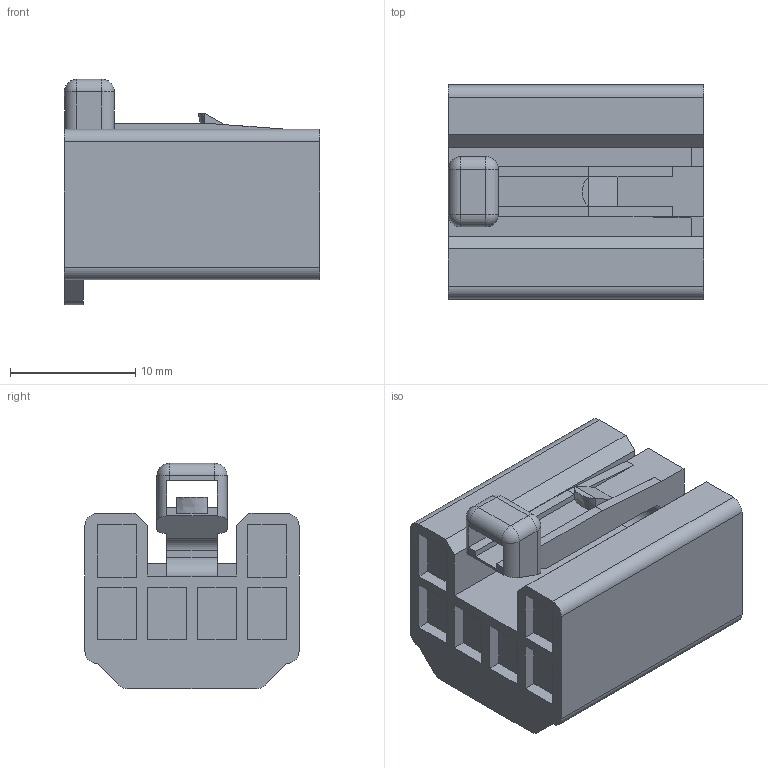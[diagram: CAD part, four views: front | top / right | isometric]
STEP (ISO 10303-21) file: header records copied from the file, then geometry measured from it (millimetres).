
FILE_DESCRIPTION(('CATIA V5 STEP Exchange','CAx-IF Rec.Pracs.--- Model Styling and Organization---1.2---2011-12-15'),'2;1');
FILE_NAME('N:\C-DAM_MyDesk\ENV\900093\6244-5061.stp','2015-01-20T01:44:40+00:00',('none'),('none'),'CATIA Version 5-6 Release 2012 SP4 HF74','CATIA V5 STEP AP214','none');
FILE_SCHEMA(('AUTOMOTIVE_DESIGN { 1 0 10303 214 1 1 1 1 }'));
Length unit declared in the file: millimetre
Products named in the file (1): 6244-5061
Bounding box: 20.4 x 17.1 x 18 mm (x, y, z)
Volume: 3619.6 mm3; surface area: 2242.6 mm2
Topology: 1 solids, 1 shells, 131 faces, 339 edges, 216 vertices
Faces by surface type: plane 110, cylinder 15, sphere 4, bspline 2
Entity records: 3843 total; most frequent: CARTESIAN_POINT 790, ORIENTED_EDGE 670, DIRECTION 525, EDGE_CURVE 335, VECTOR 293, LINE 293, VERTEX_POINT 216, EDGE_LOOP 143
